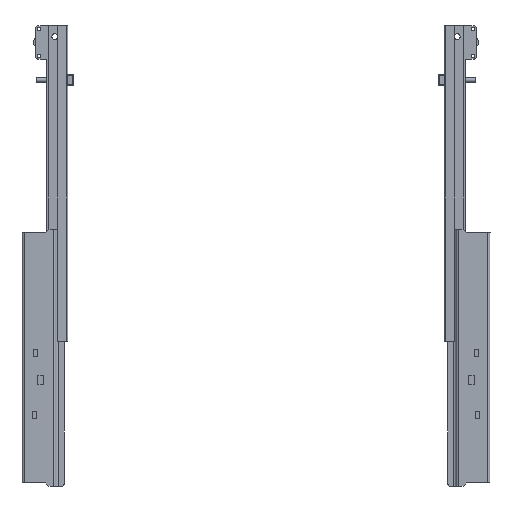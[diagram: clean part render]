
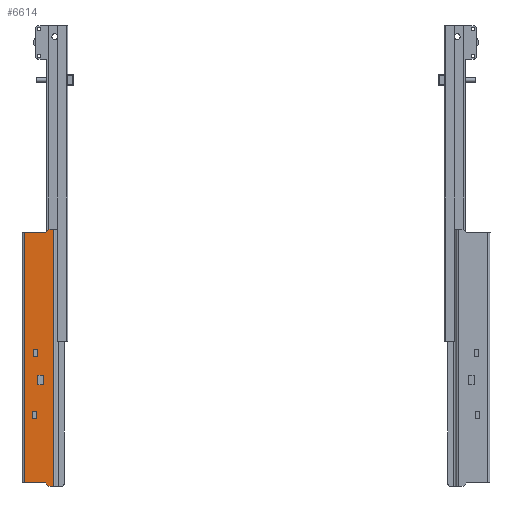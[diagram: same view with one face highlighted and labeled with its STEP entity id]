
A CAD part, front view. The second image highlights one B-rep face of the part: STEP entity #6614.
In plain terms, the highlighted planar face has unit normal (0, -1, 0).
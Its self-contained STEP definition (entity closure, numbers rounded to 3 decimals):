
#191=FACE_BOUND('',#1013,.T.);
#192=FACE_BOUND('',#1014,.T.);
#193=FACE_BOUND('',#1015,.T.);
#640=FACE_OUTER_BOUND('',#1012,.T.);
#1012=EDGE_LOOP('',(#4341,#4342,#4343,#4344,#4345,#4346,#4347,#4348));
#1013=EDGE_LOOP('',(#4349,#4350,#4351,#4352));
#1014=EDGE_LOOP('',(#4353,#4354,#4355,#4356));
#1015=EDGE_LOOP('',(#4357,#4358,#4359,#4360));
#1545=LINE('',#9500,#2161);
#1549=LINE('',#9508,#2165);
#1552=LINE('',#9514,#2168);
#1555=LINE('',#9519,#2171);
#1557=LINE('',#9525,#2173);
#1561=LINE('',#9533,#2177);
#1564=LINE('',#9539,#2180);
#1567=LINE('',#9544,#2183);
#1569=LINE('',#9550,#2185);
#1573=LINE('',#9558,#2189);
#1576=LINE('',#9564,#2192);
#1579=LINE('',#9569,#2195);
#1581=LINE('',#9575,#2197);
#1585=LINE('',#9583,#2201);
#1598=LINE('',#9629,#2214);
#1599=LINE('',#9631,#2215);
#1600=LINE('',#9633,#2216);
#1601=LINE('',#9635,#2217);
#1602=LINE('',#9637,#2218);
#1603=LINE('',#9638,#2219);
#2161=VECTOR('',#7614,6.);
#2165=VECTOR('',#7620,3.5);
#2168=VECTOR('',#7625,6.);
#2171=VECTOR('',#7630,3.5);
#2173=VECTOR('',#7636,6.);
#2177=VECTOR('',#7642,3.5);
#2180=VECTOR('',#7647,6.);
#2183=VECTOR('',#7652,3.5);
#2185=VECTOR('',#7658,8.);
#2189=VECTOR('',#7664,5.);
#2192=VECTOR('',#7669,8.);
#2195=VECTOR('',#7674,5.);
#2197=VECTOR('',#7680,4.243);
#2201=VECTOR('',#7686,18.);
#2214=VECTOR('',#7721,4.);
#2215=VECTOR('',#7722,220.);
#2216=VECTOR('',#7723,4.);
#2217=VECTOR('',#7724,4.243);
#2218=VECTOR('',#7725,18.);
#2219=VECTOR('',#7726,214.);
#2777=VERTEX_POINT('',#9498);
#2778=VERTEX_POINT('',#9499);
#2781=VERTEX_POINT('',#9507);
#2783=VERTEX_POINT('',#9513);
#2785=VERTEX_POINT('',#9523);
#2786=VERTEX_POINT('',#9524);
#2789=VERTEX_POINT('',#9532);
#2791=VERTEX_POINT('',#9538);
#2793=VERTEX_POINT('',#9548);
#2794=VERTEX_POINT('',#9549);
#2797=VERTEX_POINT('',#9557);
#2799=VERTEX_POINT('',#9563);
#2801=VERTEX_POINT('',#9573);
#2802=VERTEX_POINT('',#9574);
#2805=VERTEX_POINT('',#9582);
#2827=VERTEX_POINT('',#9628);
#2828=VERTEX_POINT('',#9630);
#2829=VERTEX_POINT('',#9632);
#2830=VERTEX_POINT('',#9634);
#2831=VERTEX_POINT('',#9636);
#3383=EDGE_CURVE('',#2777,#2778,#1545,.T.);
#3387=EDGE_CURVE('',#2778,#2781,#1549,.T.);
#3390=EDGE_CURVE('',#2781,#2783,#1552,.T.);
#3393=EDGE_CURVE('',#2783,#2777,#1555,.T.);
#3395=EDGE_CURVE('',#2785,#2786,#1557,.T.);
#3399=EDGE_CURVE('',#2786,#2789,#1561,.T.);
#3402=EDGE_CURVE('',#2789,#2791,#1564,.T.);
#3405=EDGE_CURVE('',#2791,#2785,#1567,.T.);
#3407=EDGE_CURVE('',#2793,#2794,#1569,.T.);
#3411=EDGE_CURVE('',#2794,#2797,#1573,.T.);
#3414=EDGE_CURVE('',#2797,#2799,#1576,.T.);
#3417=EDGE_CURVE('',#2799,#2793,#1579,.T.);
#3419=EDGE_CURVE('',#2801,#2802,#1581,.T.);
#3423=EDGE_CURVE('',#2805,#2801,#1585,.T.);
#3446=EDGE_CURVE('',#2827,#2802,#1598,.T.);
#3447=EDGE_CURVE('',#2828,#2827,#1599,.T.);
#3448=EDGE_CURVE('',#2829,#2828,#1600,.T.);
#3449=EDGE_CURVE('',#2829,#2830,#1601,.T.);
#3450=EDGE_CURVE('',#2830,#2831,#1602,.T.);
#3451=EDGE_CURVE('',#2831,#2805,#1603,.T.);
#4341=ORIENTED_EDGE('',*,*,#3423,.T.);
#4342=ORIENTED_EDGE('',*,*,#3419,.T.);
#4343=ORIENTED_EDGE('',*,*,#3446,.F.);
#4344=ORIENTED_EDGE('',*,*,#3447,.F.);
#4345=ORIENTED_EDGE('',*,*,#3448,.F.);
#4346=ORIENTED_EDGE('',*,*,#3449,.T.);
#4347=ORIENTED_EDGE('',*,*,#3450,.T.);
#4348=ORIENTED_EDGE('',*,*,#3451,.T.);
#4349=ORIENTED_EDGE('',*,*,#3383,.T.);
#4350=ORIENTED_EDGE('',*,*,#3387,.T.);
#4351=ORIENTED_EDGE('',*,*,#3390,.T.);
#4352=ORIENTED_EDGE('',*,*,#3393,.T.);
#4353=ORIENTED_EDGE('',*,*,#3395,.T.);
#4354=ORIENTED_EDGE('',*,*,#3399,.T.);
#4355=ORIENTED_EDGE('',*,*,#3402,.T.);
#4356=ORIENTED_EDGE('',*,*,#3405,.T.);
#4357=ORIENTED_EDGE('',*,*,#3407,.T.);
#4358=ORIENTED_EDGE('',*,*,#3411,.T.);
#4359=ORIENTED_EDGE('',*,*,#3414,.T.);
#4360=ORIENTED_EDGE('',*,*,#3417,.T.);
#6014=PLANE('',#7003);
#6614=ADVANCED_FACE('',(#640,#191,#192,#193),#6014,.T.);
#7003=AXIS2_PLACEMENT_3D('',#9627,#7719,#7720);
#7614=DIRECTION('',(0.,0.,1.));
#7620=DIRECTION('',(1.,0.,0.));
#7625=DIRECTION('',(0.,0.,-1.));
#7630=DIRECTION('',(-1.,0.,0.));
#7636=DIRECTION('',(0.,0.,-1.));
#7642=DIRECTION('',(-1.,0.,0.));
#7647=DIRECTION('',(0.,0.,1.));
#7652=DIRECTION('',(1.,0.,0.));
#7658=DIRECTION('',(0.,0.,1.));
#7664=DIRECTION('',(1.,0.,0.));
#7669=DIRECTION('',(0.,0.,-1.));
#7674=DIRECTION('',(-1.,0.,0.));
#7680=DIRECTION('',(0.707,0.,-0.707));
#7686=DIRECTION('',(1.,0.,0.));
#7719=DIRECTION('center_axis',(0.,-1.,0.));
#7720=DIRECTION('ref_axis',(-1.,0.,0.));
#7721=DIRECTION('',(-1.,0.,0.));
#7722=DIRECTION('',(0.,0.,-1.));
#7723=DIRECTION('',(1.,0.,0.));
#7724=DIRECTION('',(-0.707,0.,-0.707));
#7725=DIRECTION('',(-1.,0.,0.));
#7726=DIRECTION('',(0.,0.,-1.));
#9498=CARTESIAN_POINT('',(10.,0.,-109.));
#9499=CARTESIAN_POINT('',(10.,0.,-103.));
#9500=CARTESIAN_POINT('',(10.,0.,-51.5));
#9507=CARTESIAN_POINT('',(13.5,0.,-103.));
#9508=CARTESIAN_POINT('',(20.25,0.,-103.));
#9513=CARTESIAN_POINT('',(13.5,0.,-109.));
#9514=CARTESIAN_POINT('',(13.5,0.,-54.5));
#9519=CARTESIAN_POINT('',(18.5,0.,-109.));
#9523=CARTESIAN_POINT('',(12.5,0.,-156.));
#9524=CARTESIAN_POINT('',(12.5,0.,-162.));
#9525=CARTESIAN_POINT('',(12.5,0.,-81.));
#9532=CARTESIAN_POINT('',(9.,0.,-162.));
#9533=CARTESIAN_POINT('',(18.,0.,-162.));
#9538=CARTESIAN_POINT('',(9.,0.,-156.));
#9539=CARTESIAN_POINT('',(9.,0.,-78.));
#9544=CARTESIAN_POINT('',(19.75,0.,-156.));
#9548=CARTESIAN_POINT('',(13.5,0.,-133.));
#9549=CARTESIAN_POINT('',(13.5,0.,-125.));
#9550=CARTESIAN_POINT('',(13.5,0.,-62.5));
#9557=CARTESIAN_POINT('',(18.5,0.,-125.));
#9558=CARTESIAN_POINT('',(22.75,0.,-125.));
#9563=CARTESIAN_POINT('',(18.5,0.,-133.));
#9564=CARTESIAN_POINT('',(18.5,0.,-66.5));
#9569=CARTESIAN_POINT('',(20.25,0.,-133.));
#9573=CARTESIAN_POINT('',(20.,0.,-217.));
#9574=CARTESIAN_POINT('',(23.,0.,-220.));
#9575=CARTESIAN_POINT('',(-32.5,0.,-164.5));
#9582=CARTESIAN_POINT('',(2.,0.,-217.));
#9583=CARTESIAN_POINT('',(13.5,0.,-217.));
#9627=CARTESIAN_POINT('Origin',(27.,0.,0.));
#9628=CARTESIAN_POINT('',(27.,0.,-220.));
#9629=CARTESIAN_POINT('',(2.,0.,-220.));
#9630=CARTESIAN_POINT('',(27.,0.,0.));
#9631=CARTESIAN_POINT('',(27.,0.,0.));
#9632=CARTESIAN_POINT('',(23.,0.,0.));
#9633=CARTESIAN_POINT('',(2.,0.,0.));
#9634=CARTESIAN_POINT('',(20.,0.,-3.));
#9635=CARTESIAN_POINT('',(24.,0.,1.));
#9636=CARTESIAN_POINT('',(2.,0.,-3.));
#9637=CARTESIAN_POINT('',(23.5,0.,-3.));
#9638=CARTESIAN_POINT('',(2.,0.,0.));
